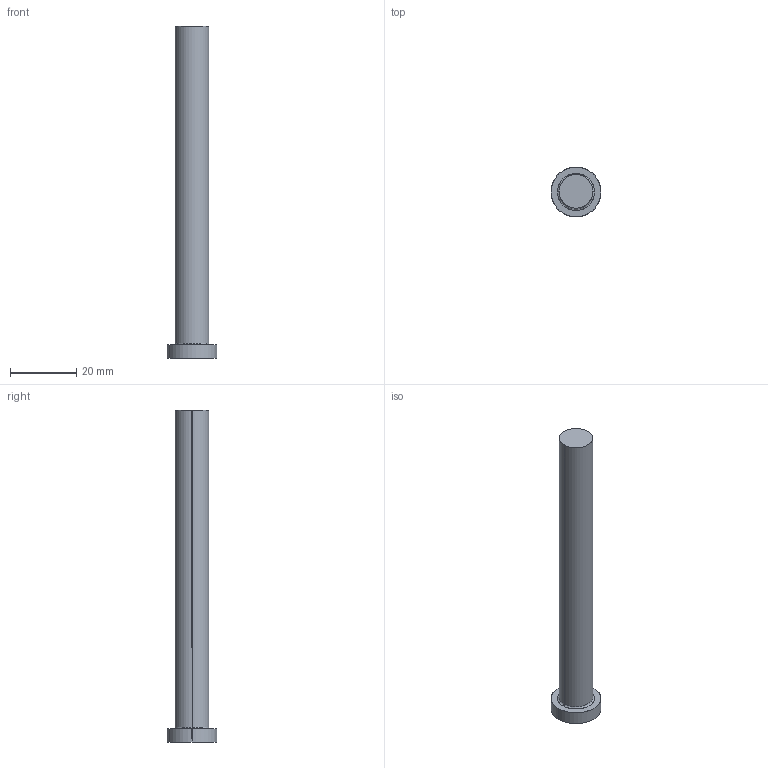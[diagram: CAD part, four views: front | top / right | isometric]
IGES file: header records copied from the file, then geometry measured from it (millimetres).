
Start section: SolidWorks IGES file using analytic representation for surfaces
Global section: file name: D:\Current\W1-2\EPHE-B\EPHE-B10.1-100.igs; native system: SolidWorks 2017; preprocessor: SolidWorks 2017; author: Ravi Kalvai; date: 240411.173304; units: millimetre
Bounding box: 15 x 15 x 100 mm (x, y, z)
Surface area: 3581.3 mm2 (no closed solid volume)
Topology: 0 solids, 0 shells, 9 faces, 152 edges, 152 vertices
Faces by surface type: bspline 5, revolution 4
